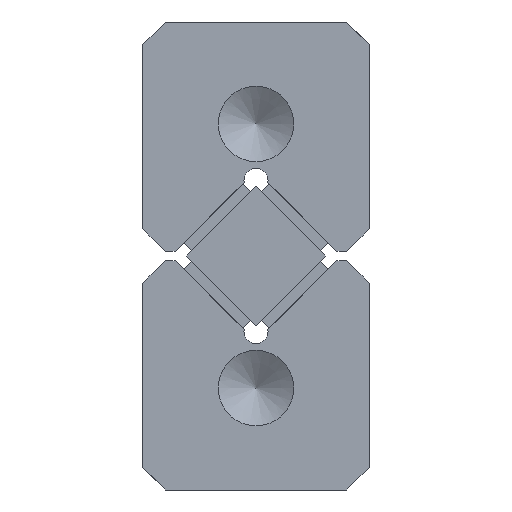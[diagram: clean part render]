
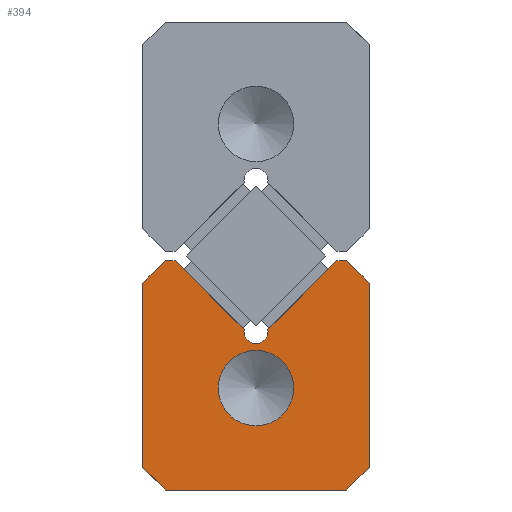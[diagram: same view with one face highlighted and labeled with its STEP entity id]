
A CAD part, left-side view. The second image highlights one B-rep face of the part: STEP entity #394.
In plain terms, the highlighted planar face has unit normal (-1, 0, 0).
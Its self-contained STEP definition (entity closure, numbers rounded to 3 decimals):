
#184=CARTESIAN_POINT('',(0.0,2.5,0.75));
#185=VERTEX_POINT('',#184);
#186=CARTESIAN_POINT('',(0.0,0.0,0.75));
#187=DIRECTION('',(1.0,0.0,0.0));
#188=DIRECTION('',(0.0,1.0,0.0));
#189=AXIS2_PLACEMENT_3D('',#186,#187,#188);
#190=CIRCLE('',#189,2.5);
#191=EDGE_CURVE('',#185,#185,#190,.T.);
#214=CARTESIAN_POINT('',(0.0,-6.,9.2));
#215=VERTEX_POINT('',#214);
#222=CARTESIAN_POINT('',(0.0,-7.5,7.7));
#223=VERTEX_POINT('',#222);
#224=CARTESIAN_POINT('',(0.0,-6.,9.2));
#225=DIRECTION('',(0.0,-0.707,-0.707));
#226=VECTOR('',#225,2.121);
#227=LINE('',#224,#226);
#228=EDGE_CURVE('',#215,#223,#227,.T.);
#245=CARTESIAN_POINT('',(0.0,-7.5,-4.5));
#246=VERTEX_POINT('',#245);
#247=CARTESIAN_POINT('',(0.0,-7.5,7.7));
#248=DIRECTION('',(0.0,0.0,-1.0));
#249=VECTOR('',#248,12.2);
#250=LINE('',#247,#249);
#251=EDGE_CURVE('',#223,#246,#250,.T.);
#303=CARTESIAN_POINT('',(0.0,0.,1.512));
#304=DIRECTION('',(1.0,0.0,0.0));
#305=DIRECTION('',(0.0,0.0,-1.0));
#306=AXIS2_PLACEMENT_3D('',#303,#304,#305);
#307=PLANE('',#306);
#308=ORIENTED_EDGE('',*,*,#228,.F.);
#309=CARTESIAN_POINT('',(0.0,-5.357,9.2));
#310=VERTEX_POINT('',#309);
#311=CARTESIAN_POINT('',(0.0,-5.357,9.2));
#312=DIRECTION('',(0.0,-1.0,0.0));
#313=VECTOR('',#312,0.643);
#314=LINE('',#311,#313);
#315=EDGE_CURVE('',#310,#215,#314,.T.);
#316=ORIENTED_EDGE('',*,*,#315,.F.);
#317=CARTESIAN_POINT('',(0.0,-0.789,4.632));
#318=VERTEX_POINT('',#317);
#319=CARTESIAN_POINT('',(0.0,-0.789,4.632));
#320=DIRECTION('',(0.0,-0.707,0.707));
#321=VECTOR('',#320,6.46);
#322=LINE('',#319,#321);
#323=EDGE_CURVE('',#318,#310,#322,.T.);
#324=ORIENTED_EDGE('',*,*,#323,.F.);
#325=CARTESIAN_POINT('',(0.0,0.789,4.632));
#326=VERTEX_POINT('',#325);
#327=CARTESIAN_POINT('',(0.0,0.0,4.5));
#328=DIRECTION('',(-1.,0.0,0.0));
#329=DIRECTION('',(0.0,0.986,-0.165));
#330=AXIS2_PLACEMENT_3D('',#327,#328,#329);
#331=CIRCLE('',#330,0.8);
#332=EDGE_CURVE('',#326,#318,#331,.T.);
#333=ORIENTED_EDGE('',*,*,#332,.F.);
#334=CARTESIAN_POINT('',(0.0,5.357,9.2));
#335=VERTEX_POINT('',#334);
#336=CARTESIAN_POINT('',(0.0,5.357,9.2));
#337=DIRECTION('',(0.0,-0.707,-0.707));
#338=VECTOR('',#337,6.46);
#339=LINE('',#336,#338);
#340=EDGE_CURVE('',#335,#326,#339,.T.);
#341=ORIENTED_EDGE('',*,*,#340,.F.);
#342=CARTESIAN_POINT('',(0.0,6.,9.2));
#343=VERTEX_POINT('',#342);
#344=CARTESIAN_POINT('',(0.0,6.,9.2));
#345=DIRECTION('',(0.0,-1.0,0.0));
#346=VECTOR('',#345,0.643);
#347=LINE('',#344,#346);
#348=EDGE_CURVE('',#343,#335,#347,.T.);
#349=ORIENTED_EDGE('',*,*,#348,.F.);
#350=CARTESIAN_POINT('',(0.0,7.5,7.7));
#351=VERTEX_POINT('',#350);
#352=CARTESIAN_POINT('',(0.0,7.5,7.7));
#353=DIRECTION('',(0.0,-0.707,0.707));
#354=VECTOR('',#353,2.121);
#355=LINE('',#352,#354);
#356=EDGE_CURVE('',#351,#343,#355,.T.);
#357=ORIENTED_EDGE('',*,*,#356,.F.);
#358=CARTESIAN_POINT('',(0.0,7.5,-4.5));
#359=VERTEX_POINT('',#358);
#360=CARTESIAN_POINT('',(0.0,7.5,-4.5));
#361=DIRECTION('',(0.0,0.0,1.0));
#362=VECTOR('',#361,12.2);
#363=LINE('',#360,#362);
#364=EDGE_CURVE('',#359,#351,#363,.T.);
#365=ORIENTED_EDGE('',*,*,#364,.F.);
#366=CARTESIAN_POINT('',(0.0,6.,-6.));
#367=VERTEX_POINT('',#366);
#368=CARTESIAN_POINT('',(0.0,6.,-6.));
#369=DIRECTION('',(0.0,0.707,0.707));
#370=VECTOR('',#369,2.121);
#371=LINE('',#368,#370);
#372=EDGE_CURVE('',#367,#359,#371,.T.);
#373=ORIENTED_EDGE('',*,*,#372,.F.);
#374=CARTESIAN_POINT('',(0.0,-6.,-6.));
#375=VERTEX_POINT('',#374);
#376=CARTESIAN_POINT('',(0.0,-6.,-6.));
#377=DIRECTION('',(0.0,1.0,0.0));
#378=VECTOR('',#377,12.);
#379=LINE('',#376,#378);
#380=EDGE_CURVE('',#375,#367,#379,.T.);
#381=ORIENTED_EDGE('',*,*,#380,.F.);
#382=CARTESIAN_POINT('',(0.0,-7.5,-4.5));
#383=DIRECTION('',(0.0,0.707,-0.707));
#384=VECTOR('',#383,2.121);
#385=LINE('',#382,#384);
#386=EDGE_CURVE('',#246,#375,#385,.T.);
#387=ORIENTED_EDGE('',*,*,#386,.F.);
#388=ORIENTED_EDGE('',*,*,#251,.F.);
#389=EDGE_LOOP('',(#308,#316,#324,#333,#341,#349,#357,#365,#373,#381,#387,#388));
#390=FACE_OUTER_BOUND('',#389,.T.);
#391=ORIENTED_EDGE('',*,*,#191,.T.);
#392=EDGE_LOOP('',(#391));
#393=FACE_BOUND('',#392,.T.);
#394=ADVANCED_FACE('',(#390,#393),#307,.F.);
